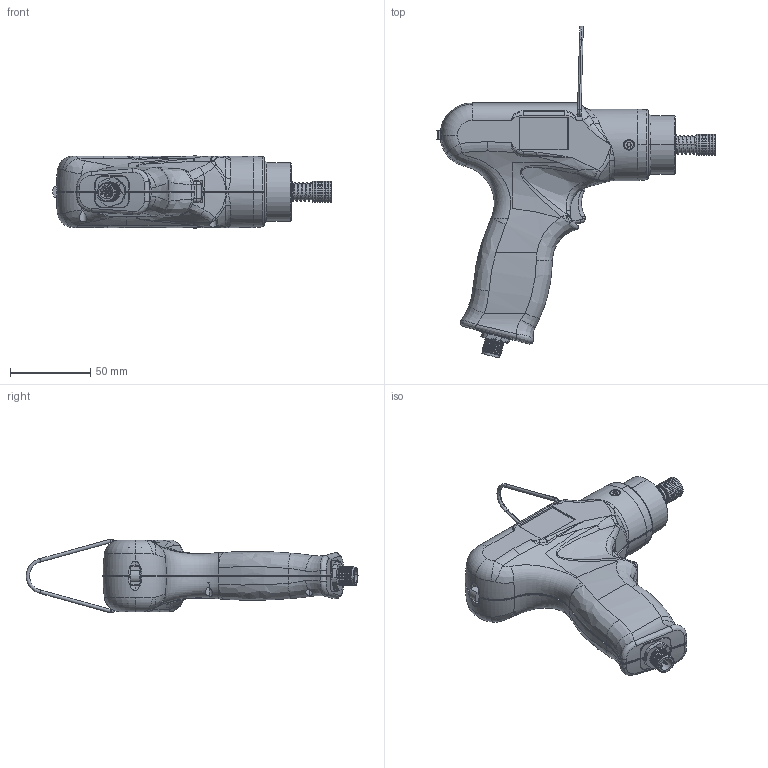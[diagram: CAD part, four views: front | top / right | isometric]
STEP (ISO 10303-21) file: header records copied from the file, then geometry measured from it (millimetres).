
FILE_DESCRIPTION (( 'STEP AP214' ), '1' );
FILE_NAME ('Pluto_P alb.10mm.STEP', '2014-05-05T14:03:26', ( 'davide' ), ( '' ), 'SwSTEP 2.0', 'SolidWorks 2013', '' );
FILE_SCHEMA (( 'AUTOMOTIVE_DESIGN' ));
Length unit declared in the file: millimetre
Products named in the file (1): Pluto_P alb.10mm
Bounding box: 173.56 x 206.87 x 45.94 mm (x, y, z)
Surface area: 112337.8 mm2 (no closed solid volume)
Topology: 0 solids, 30 shells, 2856 faces, 7254 edges, 4496 vertices
Faces by surface type: cylinder 905, plane 729, cone 573, bspline 529, torus 118, sphere 2
Entity records: 183487 total; most frequent: CARTESIAN_POINT 88826, ORIENTED_EDGE 14426, DIRECTION 11402, EDGE_CURVE 7214, VERTEX_POINT 4493, AXIS2_PLACEMENT_3D 4432, EDGE_LOOP 2972, UNCERTAINTY_MEASURE_WITH_UNIT 2887
